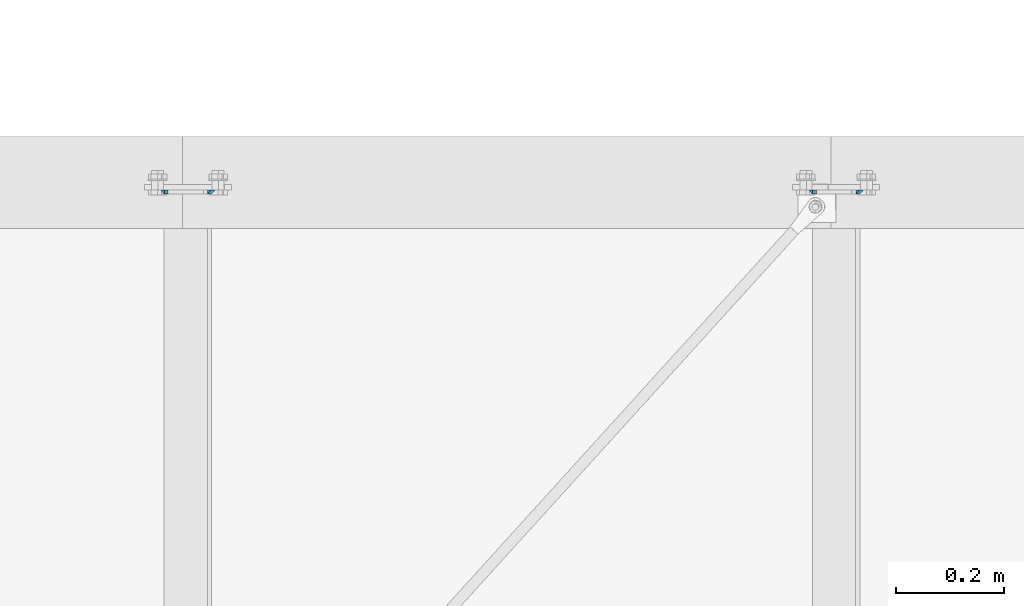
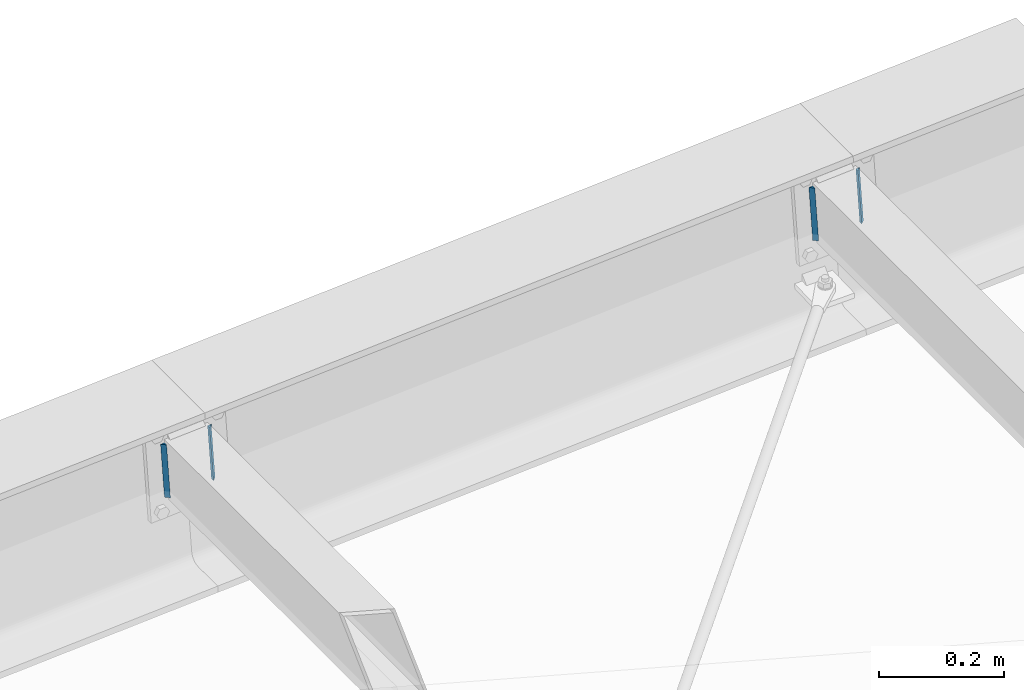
# One storey, part 24 of 72: 8 fasteners.
"""IFC4 building model written with IfcOpenShell, lengths in metres."""

from ifc_helpers import new_model, si_unit, frame, origin_with_axes, place, context, project, spatial, polyline, outline, extrude, type_object, element, save


model = new_model("IFC4")

# Units and contexts
model_context = context("Model", 3, precision=1e-05, world=origin_with_axes())
ifc_project = project(units=[si_unit("LENGTHUNIT", "METRE"), si_unit("AREAUNIT", "SQUARE_METRE"), si_unit("VOLUMEUNIT", "CUBIC_METRE"), si_unit("MASSUNIT", "GRAM", prefix="KILO"), si_unit("TIMEUNIT", "SECOND"), si_unit("PLANEANGLEUNIT", "RADIAN"), si_unit("SOLIDANGLEUNIT", "STERADIAN"), si_unit("THERMODYNAMICTEMPERATUREUNIT", "DEGREE_CELSIUS")], contexts=[model_context])

# Site, building, storey
placement_1 = place(None, origin_with_axes())
site = spatial("IfcSite", under=ifc_project, at=placement_1, Name="Italia", CompositionType="ELEMENT")
building = spatial("IfcBuilding", under=site, at=placement_1, Name="Pensilina", CompositionType="ELEMENT")
storey = spatial("IfcBuildingStorey", under=building, at=placement_1, Name="Storey 0", CompositionType="ELEMENT", Elevation=0.0)

# Fasteners
fastener_type_1 = type_object("IfcFastenerType", Name="Collegamento 0505_0504", PredefinedType="WELD")
placement_2 = place(placement_1, origin_with_axes())
fastener_1_placement = place(placement_2, origin_with_axes())
element("IfcFastener", 1, at=fastener_1_placement, inside=storey, type_object=fastener_type_1, Name="Collegamento 0505_0504", context=model_context, shape_type="SweptSolid", body=[
    extrude(outline(polyline([(0.0, 0.0, 0.0), (-0.00717354, 0.00695801, 0.0), (0.0, 0.00695801, 0.0), (0.0, 0.0, 0.0)])), frame((4.56223, 21.106, 3.9931), z_axis=(0.067318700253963, 0.0, -0.997731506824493), x_axis=(0.0, 1.0, 0.0)), (0.0, 0.0, 1.0), 0.1061),
])
fastener_type_2 = type_object("IfcFastenerType", Name="Collegamento 0505_0504", PredefinedType="WELD")
fastener_2_placement = place(placement_2, origin_with_axes())
element("IfcFastener", 2, at=fastener_2_placement, inside=storey, type_object=fastener_type_2, Name="Collegamento 0505_0504", context=model_context, shape_type="SweptSolid", body=[
    extrude(outline(polyline([(0.0, 0.0, 0.0), (0.00717354, -0.00695801, 0.0), (0.0, -0.00695801, 0.0), (0.0, 0.0, 0.0)])), frame((4.66298, 21.106, 3.89356), z_axis=(-0.067318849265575, 0.0, 0.997731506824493), x_axis=(0.0, -1.0, 0.0)), (0.0, 0.0, 1.0), 0.1061),
])
fastener_type_3 = type_object("IfcFastenerType", Name="Collegamento 0505_0504", PredefinedType="WELD")
fastener_3_placement = place(placement_2, origin_with_axes())
element("IfcFastener", 3, at=fastener_3_placement, inside=storey, type_object=fastener_type_3, Name="Collegamento 0505_0504", context=model_context, shape_type="SweptSolid", body=[
    extrude(outline(polyline([(0.0, 0.0, 0.0), (-0.00717354, 0.00695801, 0.0), (0.0, 0.00695801, 0.0), (0.0, 0.0, 0.0)])), frame((4.56223, 21.106, 3.9931), z_axis=(0.067318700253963, 0.0, -0.997731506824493), x_axis=(0.0, 1.0, 0.0)), (0.0, 0.0, 1.0), 0.1061),
])
fastener_type_4 = type_object("IfcFastenerType", Name="Collegamento 0505_0504", PredefinedType="WELD")
fastener_4_placement = place(placement_2, origin_with_axes())
element("IfcFastener", 4, at=fastener_4_placement, inside=storey, type_object=fastener_type_4, Name="Collegamento 0505_0504", context=model_context, shape_type="SweptSolid", body=[
    extrude(outline(polyline([(0.0, 0.0, 0.0), (0.00717354, -0.00695801, 0.0), (0.0, -0.00695801, 0.0), (0.0, 0.0, 0.0)])), frame((4.66298, 21.106, 3.89356), z_axis=(-0.067318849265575, 0.0, 0.997731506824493), x_axis=(0.0, -1.0, 0.0)), (0.0, 0.0, 1.0), 0.1061),
])
fastener_type_5 = type_object("IfcFastenerType", Name="Collegamento 0605_0604", PredefinedType="WELD")
fastener_5_placement = place(placement_2, origin_with_axes())
element("IfcFastener", 5, at=fastener_5_placement, inside=storey, type_object=fastener_type_5, Name="Collegamento 0605_0604", context=model_context, shape_type="SweptSolid", body=[
    extrude(outline(polyline([(0.0, 0.0, 0.0), (-0.00717354, 0.00695801, 0.0), (0.0, 0.00695801, 0.0), (0.0, 0.0, 0.0)])), frame((5.75944, 21.106, 4.07535), z_axis=(0.067314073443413, 0.0, -0.997731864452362), x_axis=(0.0, 1.0, 0.0)), (0.0, 0.0, 1.0), 0.106101),
])
fastener_type_6 = type_object("IfcFastenerType", Name="Collegamento 0605_0604", PredefinedType="WELD")
fastener_6_placement = place(placement_2, origin_with_axes())
element("IfcFastener", 6, at=fastener_6_placement, inside=storey, type_object=fastener_type_6, Name="Collegamento 0605_0604", context=model_context, shape_type="SweptSolid", body=[
    extrude(outline(polyline([(0.0, 0.0, 0.0), (0.00717354, -0.00695801, 0.0), (0.0, -0.00695801, 0.0), (0.0, 0.0, 0.0)])), frame((5.86019, 21.106, 3.97581), z_axis=(-0.067318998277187, 0.0, 0.997731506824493), x_axis=(0.0, -1.0, 0.0)), (0.0, 0.0, 1.0), 0.1061),
])
fastener_type_7 = type_object("IfcFastenerType", Name="Collegamento 0605_0604", PredefinedType="WELD")
fastener_7_placement = place(placement_2, origin_with_axes())
element("IfcFastener", 7, at=fastener_7_placement, inside=storey, type_object=fastener_type_7, Name="Collegamento 0605_0604", context=model_context, shape_type="SweptSolid", body=[
    extrude(outline(polyline([(0.0, 0.0, 0.0), (-0.00717354, 0.00695801, 0.0), (0.0, 0.00695801, 0.0), (0.0, 0.0, 0.0)])), frame((5.75944, 21.106, 4.07535), z_axis=(0.067314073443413, 0.0, -0.997731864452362), x_axis=(0.0, 1.0, 0.0)), (0.0, 0.0, 1.0), 0.106101),
])
fastener_type_8 = type_object("IfcFastenerType", Name="Collegamento 0605_0604", PredefinedType="WELD")
fastener_8_placement = place(placement_2, origin_with_axes())
element("IfcFastener", 8, at=fastener_8_placement, inside=storey, type_object=fastener_type_8, Name="Collegamento 0605_0604", context=model_context, shape_type="SweptSolid", body=[
    extrude(outline(polyline([(0.0, 0.0, 0.0), (0.00717354, -0.00695801, 0.0), (0.0, -0.00695801, 0.0), (0.0, 0.0, 0.0)])), frame((5.86019, 21.106, 3.97581), z_axis=(-0.067318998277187, 0.0, 0.997731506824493), x_axis=(0.0, -1.0, 0.0)), (0.0, 0.0, 1.0), 0.1061),
])

save(model, "model.ifc")
